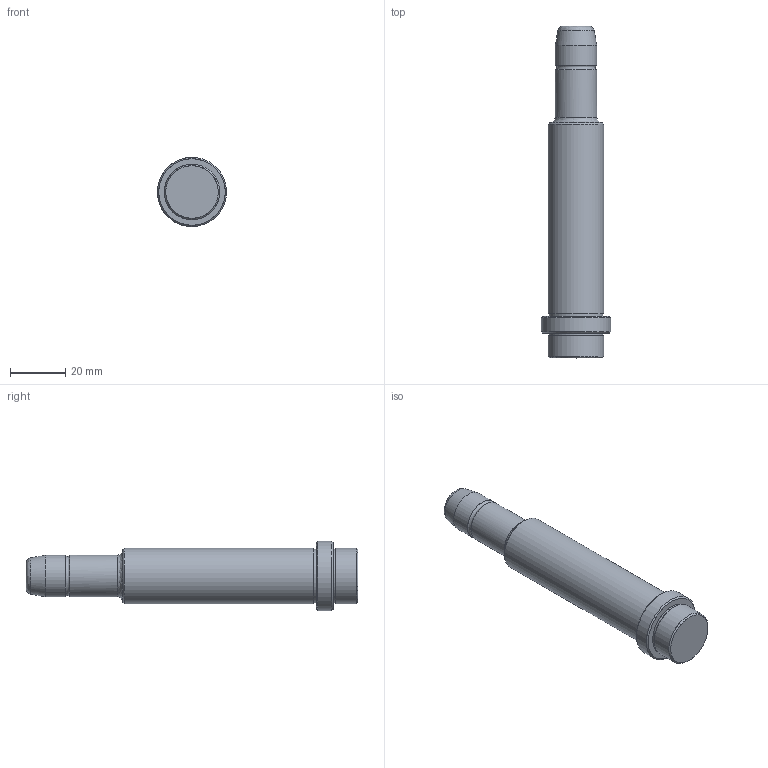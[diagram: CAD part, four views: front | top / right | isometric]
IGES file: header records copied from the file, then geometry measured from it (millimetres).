
Start section: Missler Software BP 521, 31674 Labege Cedex, France Tel   : +33 (0)5 61 00 03 00 Fax   : +33 (0)5 61 00 03 03 Email : sup.topsolid@topsolid.com
Global section: file name: D:\Cuma\24 03 2009\D03\D03_15X76X35.igs; native system: TopSolid v605250 Missler Software; preprocessor: IGES preprocessor v100000; date: 030101.001034; units: millimetre
Bounding box: 24.98 x 120 x 25 mm (x, y, z)
Surface area: 7929.1 mm2 (no closed solid volume)
Topology: 0 solids, 0 shells, 21 faces, 359 edges, 346 vertices
Faces by surface type: bspline 21
